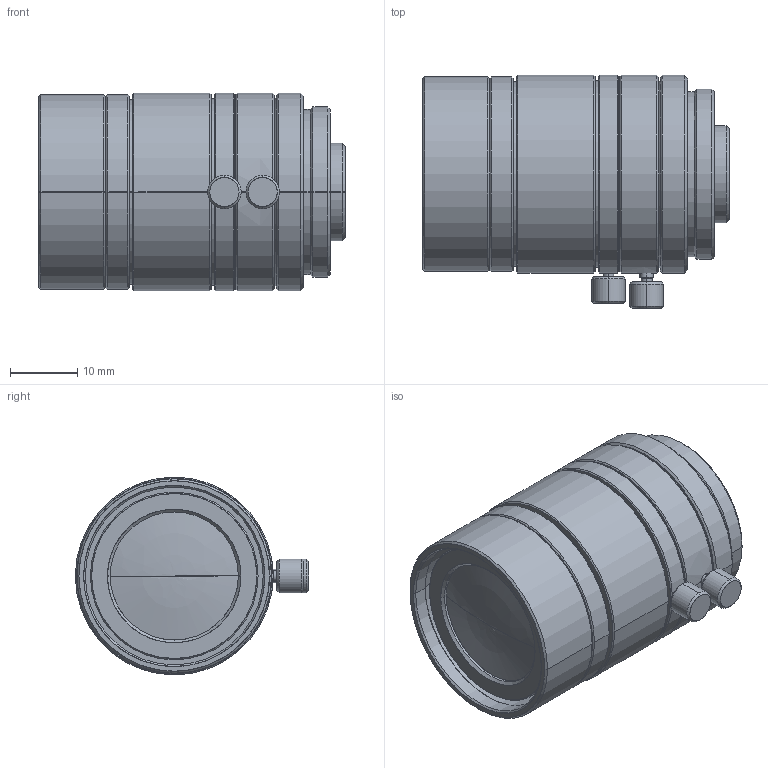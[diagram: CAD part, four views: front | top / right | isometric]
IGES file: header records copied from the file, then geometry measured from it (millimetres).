
Start section: SolidWorks IGES file using analytic representation for surfaces
Global section: file name: C:\Users\tsuji_vst\Documents\【図面】\_3D\00 VST\VS-VM\VS-1618VM.IGS; native system: SolidWorks 2016; preprocessor: SolidWorks 2016; author: tsuji_vst; date: 160510.090404; units: millimetre
Bounding box: 45.73 x 34.8 x 29.5 mm (x, y, z)
Surface area: 8015 mm2 (no closed solid volume)
Topology: 0 solids, 0 shells, 141 faces, 2576 edges, 2574 vertices
Faces by surface type: revolution 118, bspline 23
